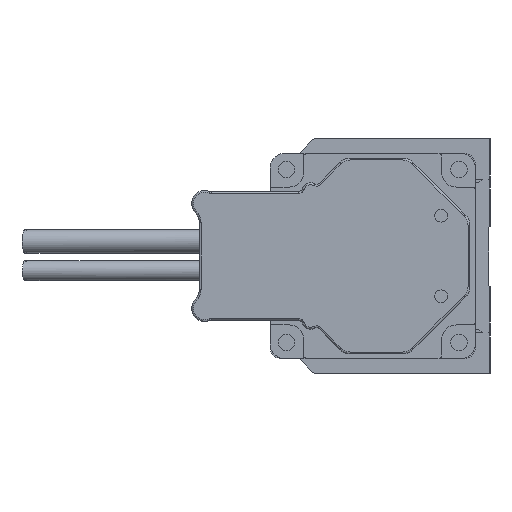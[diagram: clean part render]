
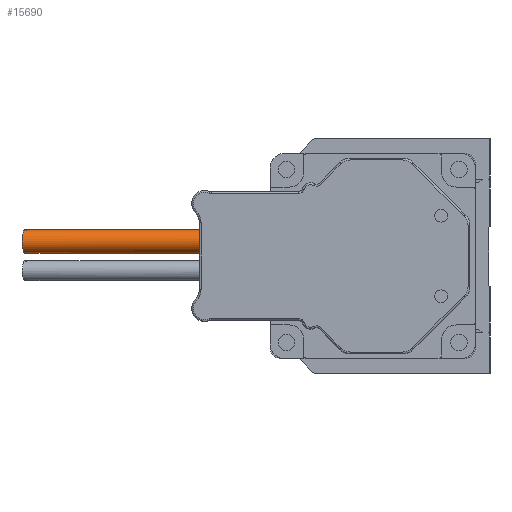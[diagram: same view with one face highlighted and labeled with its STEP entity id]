
A CAD part, left-side view. The second image highlights one B-rep face of the part: STEP entity #15690.
In plain terms, the highlighted cylindrical face has radius 3.25 mm (diameter 6.5 mm), a full revolution.
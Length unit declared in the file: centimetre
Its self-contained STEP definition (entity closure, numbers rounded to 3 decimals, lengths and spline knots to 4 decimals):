
#55=ELLIPSE('',#25973,0.335,0.325);
#1682=CIRCLE('',#25978,0.325);
#3016=VERTEX_POINT('',#24119);
#3019=VERTEX_POINT('',#24127);
#8235=EDGE_CURVE('',#3016,#3016,#55,.T.);
#8238=EDGE_CURVE('',#3019,#3019,#1682,.T.);
#12295=ORIENTED_EDGE('',*,*,#8235,.T.);
#12296=ORIENTED_EDGE('',*,*,#8238,.F.);
#13822=EDGE_LOOP('',(#12295));
#13823=EDGE_LOOP('',(#12296));
#14813=FACE_BOUND('',#13822,.T.);
#14814=FACE_BOUND('',#13823,.T.);
#15690=ADVANCED_FACE('',(#14813,#14814),#15987,.T.);
#15987=CYLINDRICAL_SURFACE('',#25977,0.325);
#19346=DIRECTION('',(0.,-0.97,-0.243));
#19347=DIRECTION('',(0.,0.081,-0.325));
#19354=DIRECTION('',(0.,1.,0.));
#19355=DIRECTION('',(0.325,0.,0.));
#19356=DIRECTION('',(0.,-1.,0.));
#19357=DIRECTION('',(0.325,0.,0.));
#24118=CARTESIAN_POINT('',(-0.4,9.4871,-4.5));
#24119=CARTESIAN_POINT('',(-0.4,9.4059,-4.175));
#24125=CARTESIAN_POINT('',(-0.4,4.7322,-4.5));
#24126=CARTESIAN_POINT('',(-0.4,4.7322,-4.5));
#24127=CARTESIAN_POINT('',(-0.075,4.7322,-4.5));
#25973=AXIS2_PLACEMENT_3D('',#24118,#19346,#19347);
#25977=AXIS2_PLACEMENT_3D('',#24125,#19354,#19355);
#25978=AXIS2_PLACEMENT_3D('',#24126,#19356,#19357);
